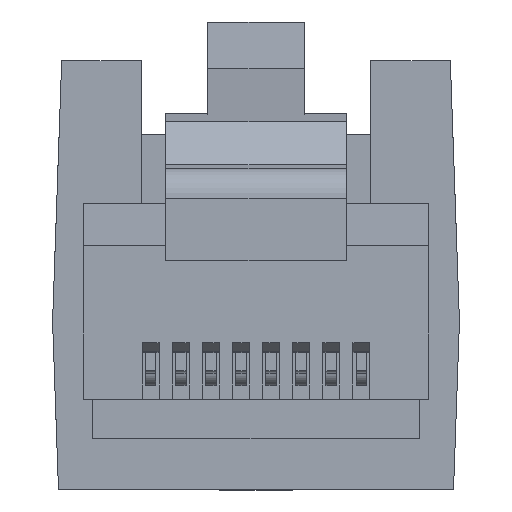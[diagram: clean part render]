
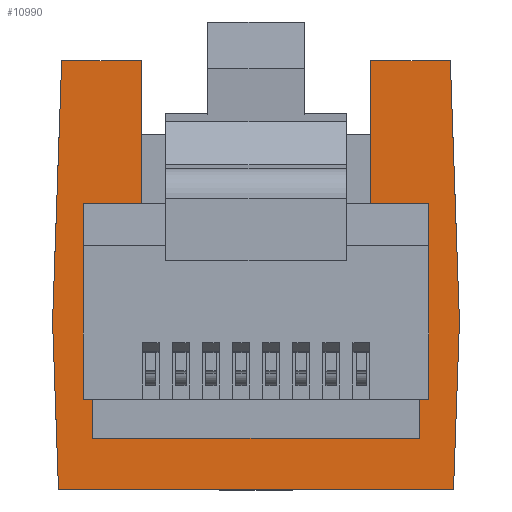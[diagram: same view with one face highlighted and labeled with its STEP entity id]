
A CAD part, front view. The second image highlights one B-rep face of the part: STEP entity #10990.
In plain terms, the highlighted planar face has unit normal (0, -1, 0).
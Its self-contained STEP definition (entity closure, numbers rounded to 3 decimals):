
#73=CARTESIAN_POINT('',(12.474,3.154,13.504));
#74=VERTEX_POINT('',#73);
#75=CARTESIAN_POINT('',(14.124,3.154,13.504));
#76=VERTEX_POINT('',#75);
#77=CARTESIAN_POINT('',(12.474,3.154,13.504));
#78=DIRECTION('',(1.0,0.0,0.0));
#79=VECTOR('',#78,1.65);
#80=LINE('',#77,#79);
#81=EDGE_CURVE('',#74,#76,#80,.T.);
#99=CARTESIAN_POINT('',(4.724,3.154,13.504));
#100=VERTEX_POINT('',#99);
#107=CARTESIAN_POINT('',(3.075,3.154,13.504));
#108=VERTEX_POINT('',#107);
#109=CARTESIAN_POINT('',(3.075,3.154,13.504));
#110=DIRECTION('',(1.0,0.0,0.0));
#111=VECTOR('',#110,1.649);
#112=LINE('',#109,#111);
#113=EDGE_CURVE('',#108,#100,#112,.T.);
#2976=CARTESIAN_POINT('',(3.075,3.154,5.884));
#2977=VERTEX_POINT('',#2976);
#2978=CARTESIAN_POINT('',(3.075,3.154,5.884));
#2979=DIRECTION('',(0.0,0.0,1.0));
#2980=VECTOR('',#2979,7.62);
#2981=LINE('',#2978,#2980);
#2982=EDGE_CURVE('',#2977,#108,#2981,.T.);
#3436=CARTESIAN_POINT('',(14.124,3.154,5.884));
#3437=VERTEX_POINT('',#3436);
#3438=CARTESIAN_POINT('',(14.124,3.154,13.504));
#3439=DIRECTION('',(0.0,0.0,-1.0));
#3440=VECTOR('',#3439,7.62);
#3441=LINE('',#3438,#3440);
#3442=EDGE_CURVE('',#76,#3437,#3441,.T.);
#3473=CARTESIAN_POINT('',(14.124,3.154,5.884));
#3474=DIRECTION('',(-1.0,0.0,0.0));
#3475=VECTOR('',#3474,11.049);
#3476=LINE('',#3473,#3475);
#3477=EDGE_CURVE('',#3437,#2977,#3476,.T.);
#10908=CARTESIAN_POINT('',(8.599,3.154,10.134));
#10909=DIRECTION('',(0.0,1.0,0.0));
#10910=DIRECTION('',(1.0,0.0,0.0));
#10911=AXIS2_PLACEMENT_3D('',#10908,#10909,#10910);
#10912=PLANE('',#10911);
#10913=ORIENTED_EDGE('',*,*,#81,.T.);
#10914=ORIENTED_EDGE('',*,*,#3442,.T.);
#10915=ORIENTED_EDGE('',*,*,#3477,.T.);
#10916=ORIENTED_EDGE('',*,*,#2982,.T.);
#10917=ORIENTED_EDGE('',*,*,#113,.T.);
#10918=CARTESIAN_POINT('',(4.724,3.154,18.634));
#10919=VERTEX_POINT('',#10918);
#10920=CARTESIAN_POINT('',(4.724,3.154,13.504));
#10921=DIRECTION('',(0.0,0.0,1.0));
#10922=VECTOR('',#10921,5.13);
#10923=LINE('',#10920,#10922);
#10924=EDGE_CURVE('',#100,#10919,#10923,.T.);
#10925=ORIENTED_EDGE('',*,*,#10924,.T.);
#10926=CARTESIAN_POINT('',(2.031,3.154,18.634));
#10927=VERTEX_POINT('',#10926);
#10928=CARTESIAN_POINT('',(4.724,3.154,18.634));
#10929=DIRECTION('',(-1.0,0.0,0.0));
#10930=VECTOR('',#10929,2.693);
#10931=LINE('',#10928,#10930);
#10932=EDGE_CURVE('',#10919,#10927,#10931,.T.);
#10933=ORIENTED_EDGE('',*,*,#10932,.T.);
#10934=CARTESIAN_POINT('',(1.724,3.154,9.834));
#10935=VERTEX_POINT('',#10934);
#10936=CARTESIAN_POINT('',(2.031,3.154,18.634));
#10937=DIRECTION('',(-0.035,0.,-0.999));
#10938=VECTOR('',#10937,8.805);
#10939=LINE('',#10936,#10938);
#10940=EDGE_CURVE('',#10927,#10935,#10939,.T.);
#10941=ORIENTED_EDGE('',*,*,#10940,.T.);
#10942=CARTESIAN_POINT('',(1.923,3.154,4.134));
#10943=VERTEX_POINT('',#10942);
#10944=CARTESIAN_POINT('',(1.724,3.154,9.834));
#10945=DIRECTION('',(0.035,0.,-0.999));
#10946=VECTOR('',#10945,5.703);
#10947=LINE('',#10944,#10946);
#10948=EDGE_CURVE('',#10935,#10943,#10947,.T.);
#10949=ORIENTED_EDGE('',*,*,#10948,.T.);
#10950=CARTESIAN_POINT('',(15.275,3.154,4.134));
#10951=VERTEX_POINT('',#10950);
#10952=CARTESIAN_POINT('',(1.923,3.154,4.134));
#10953=DIRECTION('',(1.0,0.0,0.0));
#10954=VECTOR('',#10953,13.352);
#10955=LINE('',#10952,#10954);
#10956=EDGE_CURVE('',#10943,#10951,#10955,.T.);
#10957=ORIENTED_EDGE('',*,*,#10956,.T.);
#10958=CARTESIAN_POINT('',(15.474,3.154,9.834));
#10959=VERTEX_POINT('',#10958);
#10960=CARTESIAN_POINT('',(15.275,3.154,4.134));
#10961=DIRECTION('',(0.035,0.,0.999));
#10962=VECTOR('',#10961,5.703);
#10963=LINE('',#10960,#10962);
#10964=EDGE_CURVE('',#10951,#10959,#10963,.T.);
#10965=ORIENTED_EDGE('',*,*,#10964,.T.);
#10966=CARTESIAN_POINT('',(15.166,3.154,18.634));
#10967=VERTEX_POINT('',#10966);
#10968=CARTESIAN_POINT('',(15.474,3.154,9.834));
#10969=DIRECTION('',(-0.035,0.,0.999));
#10970=VECTOR('',#10969,8.805);
#10971=LINE('',#10968,#10970);
#10972=EDGE_CURVE('',#10959,#10967,#10971,.T.);
#10973=ORIENTED_EDGE('',*,*,#10972,.T.);
#10974=CARTESIAN_POINT('',(12.474,3.154,18.634));
#10975=VERTEX_POINT('',#10974);
#10976=CARTESIAN_POINT('',(15.166,3.154,18.634));
#10977=DIRECTION('',(-1.0,0.0,0.0));
#10978=VECTOR('',#10977,2.693);
#10979=LINE('',#10976,#10978);
#10980=EDGE_CURVE('',#10967,#10975,#10979,.T.);
#10981=ORIENTED_EDGE('',*,*,#10980,.T.);
#10982=CARTESIAN_POINT('',(12.474,3.154,13.504));
#10983=DIRECTION('',(0.0,0.0,1.0));
#10984=VECTOR('',#10983,5.13);
#10985=LINE('',#10982,#10984);
#10986=EDGE_CURVE('',#74,#10975,#10985,.T.);
#10987=ORIENTED_EDGE('',*,*,#10986,.F.);
#10988=EDGE_LOOP('',(#10913,#10914,#10915,#10916,#10917,#10925,#10933,#10941,#10949,#10957,#10965,#10973,#10981,#10987));
#10989=FACE_OUTER_BOUND('',#10988,.T.);
#10990=ADVANCED_FACE('',(#10989),#10912,.F.);
